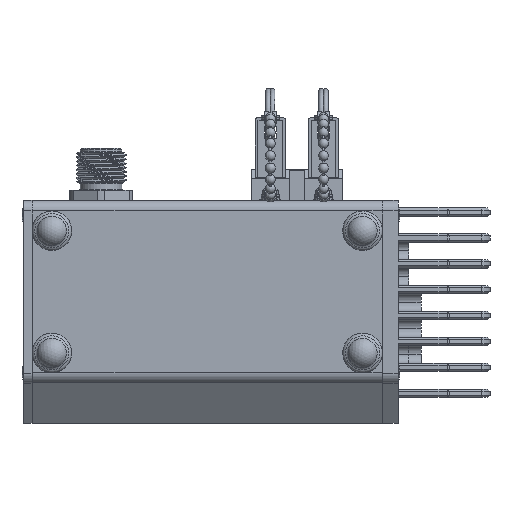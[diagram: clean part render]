
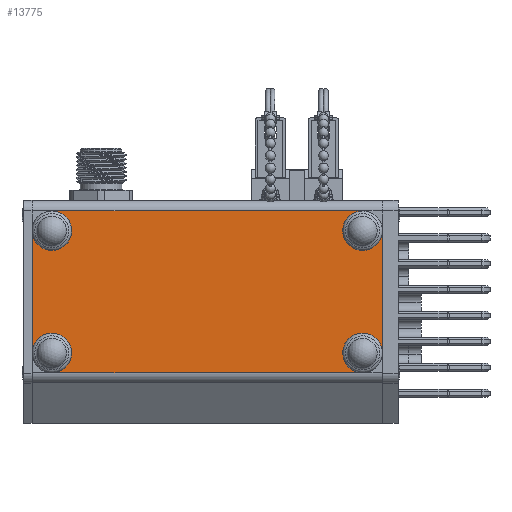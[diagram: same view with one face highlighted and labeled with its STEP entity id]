
A CAD part, front view. The second image highlights one B-rep face of the part: STEP entity #13775.
In plain terms, the highlighted planar face has unit normal (0, -1, 0).
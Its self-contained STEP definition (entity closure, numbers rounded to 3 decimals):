
#13 = DIRECTION ( 'NONE',  ( 0., 1., 0. ) ) ;
#5137 = CARTESIAN_POINT ( 'NONE',  ( 79.25, -52.5, -36.554 ) ) ;
#8802 = DIRECTION ( 'NONE',  ( 0., 1., 0. ) ) ;
#13775 = ADVANCED_FACE ( 'NONE', ( #53553 ), #38400, .F. ) ;
#16529 = EDGE_CURVE ( 'NONE', #58889, #170109, #91829, .T. ) ;
#23045 = CARTESIAN_POINT ( 'NONE',  ( 0., -52.5, 0. ) ) ;
#27528 = AXIS2_PLACEMENT_3D ( 'NONE', #23045, #8802, #212097 ) ;
#27904 = CARTESIAN_POINT ( 'NONE',  ( 84., -52.5, -36.554 ) ) ;
#28467 = ORIENTED_EDGE ( 'NONE', *, *, #86973, .T. ) ;
#31310 = ORIENTED_EDGE ( 'NONE', *, *, #80109, .F. ) ;
#31702 = DIRECTION ( 'NONE',  ( -0.094, 0., 0.996 ) ) ;
#33031 = AXIS2_PLACEMENT_3D ( 'NONE', #49076, #13, #31702 ) ;
#33243 = VERTEX_POINT ( 'NONE', #44992 ) ;
#35039 = LINE ( 'NONE', #39319, #89490 ) ;
#36869 = DIRECTION ( 'NONE',  ( 0.088, 0., 0.996 ) ) ;
#38400 = PLANE ( 'NONE',  #27528 ) ;
#39319 = CARTESIAN_POINT ( 'NONE',  ( 0., -52.5, -2.5 ) ) ;
#44992 = CARTESIAN_POINT ( 'NONE',  ( 4.75, -52.5, -2.5 ) ) ;
#45717 = DIRECTION ( 'NONE',  ( 0., 0., 1. ) ) ;
#49076 = CARTESIAN_POINT ( 'NONE',  ( 4.75, -52.5, -36.554 ) ) ;
#51655 = DIRECTION ( 'NONE',  ( 0., 1., 0. ) ) ;
#53553 = FACE_OUTER_BOUND ( 'NONE', #194303, .T. ) ;
#58889 = VERTEX_POINT ( 'NONE', #196312 ) ;
#61224 = LINE ( 'NONE', #95068, #172599 ) ;
#63210 = VECTOR ( 'NONE', #45717, 1000. ) ;
#65300 = EDGE_CURVE ( 'NONE', #204093, #72210, #110115, .T. ) ;
#72210 = VERTEX_POINT ( 'NONE', #27904 ) ;
#75321 = DIRECTION ( 'NONE',  ( 0., 1., 0. ) ) ;
#77312 = CARTESIAN_POINT ( 'NONE',  ( 84., -52.5, 0. ) ) ;
#78517 = CARTESIAN_POINT ( 'NONE',  ( 79.25, -52.5, -2.5 ) ) ;
#78577 = ORIENTED_EDGE ( 'NONE', *, *, #98991, .T. ) ;
#80109 = EDGE_CURVE ( 'NONE', #204093, #165749, #148663, .T. ) ;
#83044 = DIRECTION ( 'NONE',  ( 0., 0., 1. ) ) ;
#86973 = EDGE_CURVE ( 'NONE', #72210, #58889, #209794, .T. ) ;
#89427 = CARTESIAN_POINT ( 'NONE',  ( 0., -52.5, -7.25 ) ) ;
#89490 = VECTOR ( 'NONE', #105727, 1000. ) ;
#91829 = CIRCLE ( 'NONE', #192379, 4.75 ) ;
#95068 = CARTESIAN_POINT ( 'NONE',  ( 0., -52.5, 0. ) ) ;
#98991 = EDGE_CURVE ( 'NONE', #170109, #33243, #35039, .T. ) ;
#105727 = DIRECTION ( 'NONE',  ( -1., 0., 0. ) ) ;
#106823 = EDGE_CURVE ( 'NONE', #129377, #200013, #61224, .T. ) ;
#110115 = CIRCLE ( 'NONE', #179364, 4.75 ) ;
#113359 = ORIENTED_EDGE ( 'NONE', *, *, #106823, .F. ) ;
#122216 = DIRECTION ( 'NONE',  ( 0.002, 0., 1. ) ) ;
#129377 = VERTEX_POINT ( 'NONE', #170922 ) ;
#137010 = ORIENTED_EDGE ( 'NONE', *, *, #195359, .T. ) ;
#137374 = CIRCLE ( 'NONE', #144352, 4.75 ) ;
#139052 = DIRECTION ( 'NONE',  ( 0., 1., 0. ) ) ;
#141720 = CARTESIAN_POINT ( 'NONE',  ( 4.75, -52.5, -7.25 ) ) ;
#142073 = ORIENTED_EDGE ( 'NONE', *, *, #150506, .T. ) ;
#144352 = AXIS2_PLACEMENT_3D ( 'NONE', #141720, #75321, #122216 ) ;
#148663 = LINE ( 'NONE', #164953, #174247 ) ;
#150506 = EDGE_CURVE ( 'NONE', #33243, #200013, #137374, .T. ) ;
#151826 = DIRECTION ( 'NONE',  ( 0.939, 0., 0.343 ) ) ;
#153389 = ORIENTED_EDGE ( 'NONE', *, *, #65300, .T. ) ;
#164953 = CARTESIAN_POINT ( 'NONE',  ( 84., -52.5, -41.304 ) ) ;
#165749 = VERTEX_POINT ( 'NONE', #176723 ) ;
#170109 = VERTEX_POINT ( 'NONE', #78517 ) ;
#170922 = CARTESIAN_POINT ( 'NONE',  ( 0., -52.5, -36.554 ) ) ;
#172599 = VECTOR ( 'NONE', #83044, 1000. ) ;
#173994 = ORIENTED_EDGE ( 'NONE', *, *, #16529, .T. ) ;
#174247 = VECTOR ( 'NONE', #213729, 1000. ) ;
#176723 = CARTESIAN_POINT ( 'NONE',  ( 4.75, -52.5, -41.304 ) ) ;
#178706 = CIRCLE ( 'NONE', #33031, 4.75 ) ;
#179364 = AXIS2_PLACEMENT_3D ( 'NONE', #5137, #139052, #36869 ) ;
#192379 = AXIS2_PLACEMENT_3D ( 'NONE', #201655, #51655, #151826 ) ;
#194303 = EDGE_LOOP ( 'NONE', ( #153389, #28467, #173994, #78577, #142073, #113359, #137010, #31310 ) ) ;
#195359 = EDGE_CURVE ( 'NONE', #129377, #165749, #178706, .T. ) ;
#195885 = CARTESIAN_POINT ( 'NONE',  ( 79.25, -52.5, -41.304 ) ) ;
#196312 = CARTESIAN_POINT ( 'NONE',  ( 84., -52.5, -7.25 ) ) ;
#200013 = VERTEX_POINT ( 'NONE', #89427 ) ;
#201655 = CARTESIAN_POINT ( 'NONE',  ( 79.25, -52.5, -7.25 ) ) ;
#204093 = VERTEX_POINT ( 'NONE', #195885 ) ;
#209794 = LINE ( 'NONE', #77312, #63210 ) ;
#212097 = DIRECTION ( 'NONE',  ( 0., 0., 1. ) ) ;
#213729 = DIRECTION ( 'NONE',  ( -1., 0., 0. ) ) ;
